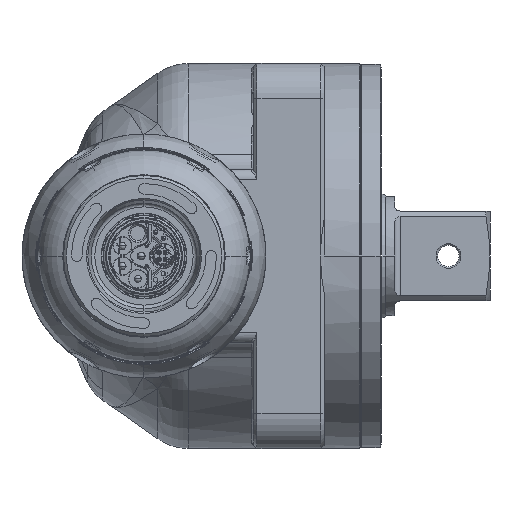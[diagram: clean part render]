
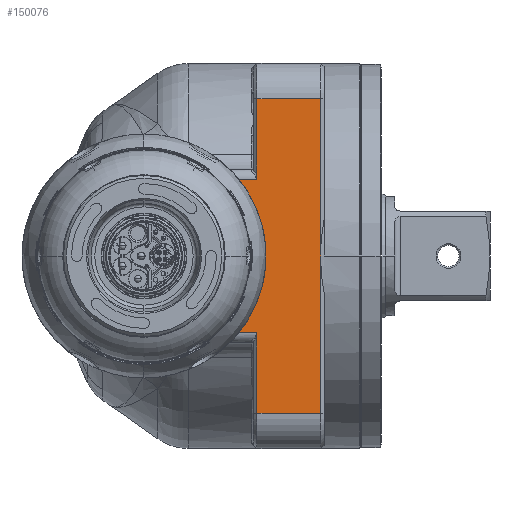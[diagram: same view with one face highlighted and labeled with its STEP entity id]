
A CAD part, left-side view. The second image highlights one B-rep face of the part: STEP entity #150076.
In plain terms, the highlighted planar face has unit normal (-1, 0, 0).
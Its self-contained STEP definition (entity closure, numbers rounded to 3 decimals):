
#144896=DIRECTION('',(0.,0.,1.));
#144897=VECTOR('',#144896,21.889);
#144898=CARTESIAN_POINT('',(173.6,-31.95,
22.611));
#144899=LINE('',#144898,#144897);
#144900=DIRECTION('',(0.,1.,0.));
#144901=VECTOR('',#144900,18.);
#144902=CARTESIAN_POINT('',(173.6,-49.95,44.5));
#144903=LINE('',#144902,#144901);
#144904=DIRECTION('',(0.,0.,-1.));
#144905=VECTOR('',#144904,44.5);
#144906=CARTESIAN_POINT('',(173.6,-49.95,44.5));
#144907=LINE('',#144906,#144905);
#144908=DIRECTION('',(0.,0.,-1.));
#144909=VECTOR('',#144908,44.5);
#144910=CARTESIAN_POINT('',(173.6,-49.95,0.));
#144911=LINE('',#144910,#144909);
#144912=DIRECTION('',(0.,1.,0.));
#144913=VECTOR('',#144912,18.);
#144914=CARTESIAN_POINT('',(173.6,-49.95,-44.5));
#144915=LINE('',#144914,#144913);
#144916=DIRECTION('',(0.,0.,1.));
#144917=VECTOR('',#144916,21.889);
#144918=CARTESIAN_POINT('',(173.6,-31.95,-44.5));
#144919=LINE('',#144918,#144917);
#144920=CARTESIAN_POINT('',(173.6,0.,0.));
#144921=DIRECTION('',(-1.,0.,0.));
#144922=DIRECTION('',(0.,-0.674,-0.739));
#144923=AXIS2_PLACEMENT_3D('',#144920,#144921,#144922);
#144925=CARTESIAN_POINT('',(173.6,-31.743,
21.609));
#144937=DIRECTION('',(0.,1.,0.));
#144938=VECTOR('',#144937,12.029);
#144939=CARTESIAN_POINT('',(173.6,-31.743,
21.609));
#144940=LINE('',#144939,#144938);
#144951=CARTESIAN_POINT('',(173.6,-31.95,
22.611));
#144952=CARTESIAN_POINT('',(173.6,-31.95,
22.507));
#144953=CARTESIAN_POINT('',(173.6,-31.936,
22.294));
#144954=CARTESIAN_POINT('',(173.6,-31.87,
21.961));
#144955=CARTESIAN_POINT('',(173.6,-31.791,
21.728));
#144956=CARTESIAN_POINT('',(173.6,-31.743,
21.609));
#145044=CARTESIAN_POINT('',(173.6,-19.714,-21.609));
#145081=CARTESIAN_POINT('',(173.6,-19.714,21.609));
#145098=DIRECTION('',(0.,-1.,0.));
#145099=VECTOR('',#145098,12.029);
#145100=CARTESIAN_POINT('',(173.6,-19.714,-21.609));
#145101=LINE('',#145100,#145099);
#145112=CARTESIAN_POINT('',(173.6,-31.743,
-21.609));
#145123=CARTESIAN_POINT('',(173.6,-31.743,
-21.609));
#145124=CARTESIAN_POINT('',(173.6,-31.77,
-21.676));
#145125=CARTESIAN_POINT('',(173.6,-31.82,
-21.811));
#145126=CARTESIAN_POINT('',(173.6,-31.878,
-22.012));
#145127=CARTESIAN_POINT('',(173.6,-31.919,
-22.212));
#145128=CARTESIAN_POINT('',(173.6,-31.944,
-22.411));
#145129=CARTESIAN_POINT('',(173.6,-31.95,
-22.544));
#145130=CARTESIAN_POINT('',(173.6,-31.95,
-22.611));
#148465=CARTESIAN_POINT('',(173.6,-31.95,44.5));
#148467=VERTEX_POINT('',#148465);
#148496=CARTESIAN_POINT('',(173.6,-31.95,-44.5));
#148498=VERTEX_POINT('',#148496);
#148519=CARTESIAN_POINT('',(173.6,-49.95,0.));
#148520=CARTESIAN_POINT('',(173.6,-49.95,-44.5));
#148521=VERTEX_POINT('',#148519);
#148522=VERTEX_POINT('',#148520);
#148537=CARTESIAN_POINT('',(173.6,-49.95,44.5));
#148538=VERTEX_POINT('',#148537);
#148611=VERTEX_POINT('',#145044);
#148618=VERTEX_POINT('',#145081);
#148682=VERTEX_POINT('',#145112);
#148731=VERTEX_POINT('',#144925);
#148747=CARTESIAN_POINT('',(173.6,-31.95,
22.611));
#148748=VERTEX_POINT('',#148747);
#148749=CARTESIAN_POINT('',(173.6,-31.95,
-22.611));
#148750=VERTEX_POINT('',#148749);
#150049=CARTESIAN_POINT('',(173.6,-50.95,54.5));
#150050=DIRECTION('',(-1.,0.,0.));
#150051=DIRECTION('',(0.,0.,-1.));
#150052=AXIS2_PLACEMENT_3D('',#150049,#150050,#150051);
#150053=PLANE('',#150052);
#150055=ORIENTED_EDGE('',*,*,#150054,.F.);
#150057=ORIENTED_EDGE('',*,*,#150056,.F.);
#150059=ORIENTED_EDGE('',*,*,#150058,.T.);
#150061=ORIENTED_EDGE('',*,*,#150060,.F.);
#150063=ORIENTED_EDGE('',*,*,#150062,.T.);
#150065=ORIENTED_EDGE('',*,*,#150064,.T.);
#150066=ORIENTED_EDGE('',*,*,#150041,.T.);
#150067=ORIENTED_EDGE('',*,*,#149262,.T.);
#150069=ORIENTED_EDGE('',*,*,#150068,.F.);
#150071=ORIENTED_EDGE('',*,*,#150070,.F.);
#150073=ORIENTED_EDGE('',*,*,#150072,.T.);
#150074=EDGE_LOOP('',(#150055,#150057,#150059,#150061,#150063,#150065,#150066,
#150067,#150069,#150071,#150073));
#150075=FACE_OUTER_BOUND('',#150074,.F.);
#150076=ADVANCED_FACE('',(#150075),#150053,.T.);
#144924=CIRCLE('',#144923,29.25);
#144957=B_SPLINE_CURVE_WITH_KNOTS('',3,(#144951,#144952,#144953,#144954,#144955,
#144956),.UNSPECIFIED.,.F.,.F.,(4,1,1,4),(0.,0.333,
0.667,1.),.UNSPECIFIED.);
#145131=B_SPLINE_CURVE_WITH_KNOTS('',3,(#145123,#145124,#145125,#145126,#145127,
#145128,#145129,#145130),.UNSPECIFIED.,.F.,.F.,(4,1,1,1,1,4),(0.,0.2,0.4,
0.6,0.8,1.),.UNSPECIFIED.);
#149262=EDGE_CURVE('',#148498,#148750,#144919,.T.);
#150041=EDGE_CURVE('',#148522,#148498,#144915,.T.);
#150054=EDGE_CURVE('',#148731,#148618,#144940,.T.);
#150056=EDGE_CURVE('',#148748,#148731,#144957,.T.);
#150058=EDGE_CURVE('',#148748,#148467,#144899,.T.);
#150060=EDGE_CURVE('',#148538,#148467,#144903,.T.);
#150062=EDGE_CURVE('',#148538,#148521,#144907,.T.);
#150064=EDGE_CURVE('',#148521,#148522,#144911,.T.);
#150068=EDGE_CURVE('',#148682,#148750,#145131,.T.);
#150070=EDGE_CURVE('',#148611,#148682,#145101,.T.);
#150072=EDGE_CURVE('',#148611,#148618,#144924,.T.);
